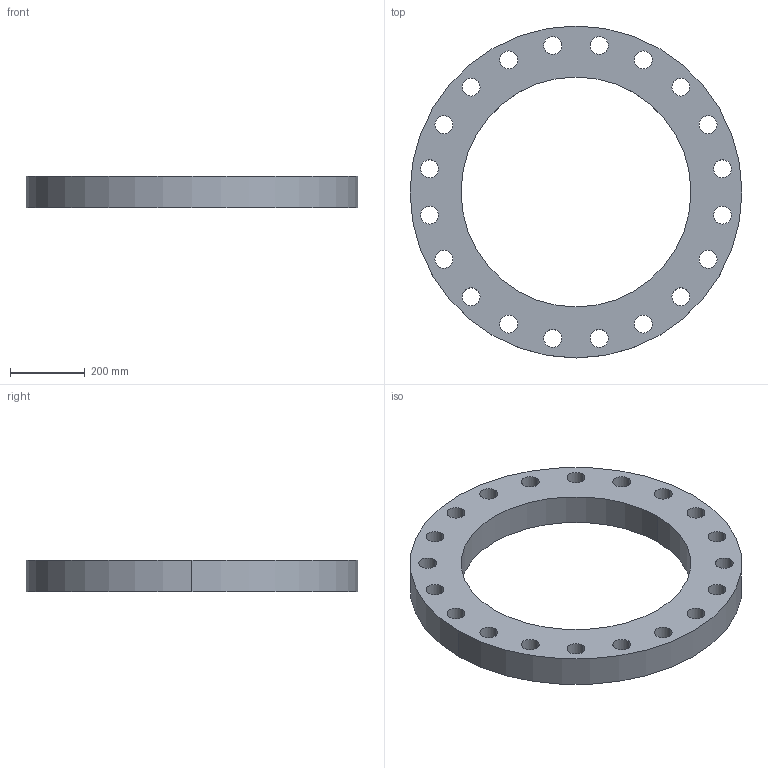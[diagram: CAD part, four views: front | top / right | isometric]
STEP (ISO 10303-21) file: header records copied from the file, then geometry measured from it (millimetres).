
FILE_DESCRIPTION (( 'STEP AP214' ), '1' );
FILE_NAME ('PN40 DN600 Type 01 - Type A Face.STEP', '2018-12-28T23:41:21', ( '' ), ( '' ), 'SwSTEP 2.0', 'SolidWorks 2019', '' );
FILE_SCHEMA (( 'AUTOMOTIVE_DESIGN' ));
Length unit declared in the file: millimetre
Products named in the file (1): PN40 DN600 Type 01 - Type A Face
Bounding box: 890 x 890 x 84 mm (x, y, z)
Volume: 24142834 mm3; surface area: 1225723.4 mm2
Topology: 1 solids, 1 shells, 46 faces, 132 edges, 88 vertices
Faces by surface type: cylinder 44, plane 2
Entity records: 1682 total; most frequent: DIRECTION 314, CARTESIAN_POINT 267, ORIENTED_EDGE 264, AXIS2_PLACEMENT_3D 135, EDGE_CURVE 132, CIRCLE 88, VERTEX_POINT 88, EDGE_LOOP 88
